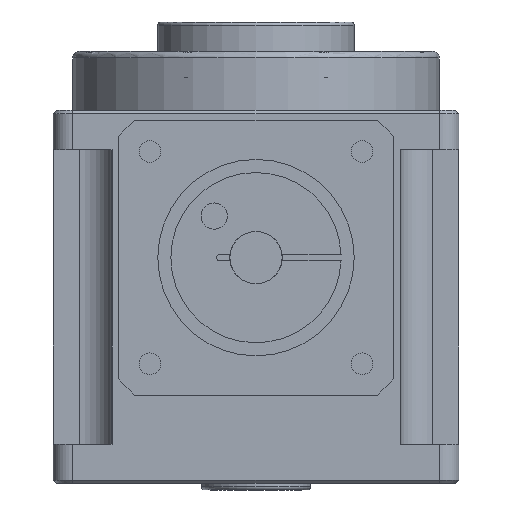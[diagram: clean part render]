
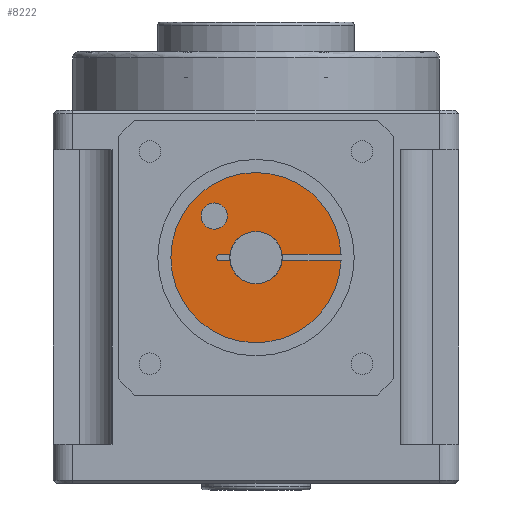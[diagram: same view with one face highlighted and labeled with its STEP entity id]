
A CAD part, front view. The second image highlights one B-rep face of the part: STEP entity #8222.
In plain terms, the highlighted planar face has unit normal (0, -1, 0) as drawn and (0, 0, -1) by its records, which use the part's own axes.
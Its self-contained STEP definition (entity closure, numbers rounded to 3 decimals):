
#24 = EDGE_CURVE ( 'NONE', #12232, #3099, #3410, .T. ) ;
#29 = EDGE_CURVE ( 'NONE', #12232, #10067, #10209, .T. ) ;
#183 = EDGE_CURVE ( 'NONE', #2002, #3324, #3611, .T. ) ;
#372 = CARTESIAN_POINT ( 'NONE',  ( 3.969, 0.5, -48.5 ) ) ;
#434 = CARTESIAN_POINT ( 'NONE',  ( 0., 0.5, -48.5 ) ) ;
#777 = DIRECTION ( 'NONE',  ( -1., 0., 0. ) ) ;
#809 = AXIS2_PLACEMENT_3D ( 'NONE', #5643, #5697, #12736 ) ;
#984 = FACE_OUTER_BOUND ( 'NONE', #1908, .T. ) ;
#1090 = DIRECTION ( 'NONE',  ( -1., 0., 0. ) ) ;
#1096 = ORIENTED_EDGE ( 'NONE', *, *, #29, .F. ) ;
#1165 = CARTESIAN_POINT ( 'NONE',  ( 12.99, -0.5, -48.5 ) ) ;
#1219 = CARTESIAN_POINT ( 'NONE',  ( 0., 0., -48.5 ) ) ;
#1312 = CARTESIAN_POINT ( 'NONE',  ( 0., -0.5, -48.5 ) ) ;
#1683 = CARTESIAN_POINT ( 'NONE',  ( 3.969, -0.5, -48.5 ) ) ;
#1844 = DIRECTION ( 'NONE',  ( -1., 0., 0. ) ) ;
#1851 = CIRCLE ( 'NONE', #809, 2. ) ;
#1874 = CIRCLE ( 'NONE', #7677, 4. ) ;
#1908 = EDGE_LOOP ( 'NONE', ( #9528, #12046, #2088, #8051, #12694, #2012, #3838, #11901, #1096 ) ) ;
#2002 = VERTEX_POINT ( 'NONE', #4945 ) ;
#2012 = ORIENTED_EDGE ( 'NONE', *, *, #8197, .F. ) ;
#2026 = DIRECTION ( 'NONE',  ( 0., 0., -1. ) ) ;
#2088 = ORIENTED_EDGE ( 'NONE', *, *, #12684, .F. ) ;
#2327 = DIRECTION ( 'NONE',  ( 0., 0., -1. ) ) ;
#2379 = DIRECTION ( 'NONE',  ( -1., 0., 0. ) ) ;
#2860 = VERTEX_POINT ( 'NONE', #2879 ) ;
#2879 = CARTESIAN_POINT ( 'NONE',  ( -6., 0., -48.5 ) ) ;
#3064 = CARTESIAN_POINT ( 'NONE',  ( -5.5, 0., -48.5 ) ) ;
#3099 = VERTEX_POINT ( 'NONE', #9520 ) ;
#3242 = AXIS2_PLACEMENT_3D ( 'NONE', #3064, #10884, #9849 ) ;
#3324 = VERTEX_POINT ( 'NONE', #10693 ) ;
#3410 = CIRCLE ( 'NONE', #9034, 13. ) ;
#3515 = EDGE_LOOP ( 'NONE', ( #7441, #6501 ) ) ;
#3611 = LINE ( 'NONE', #434, #9880 ) ;
#3614 = DIRECTION ( 'NONE',  ( 0., 0., -1. ) ) ;
#3838 = ORIENTED_EDGE ( 'NONE', *, *, #6401, .F. ) ;
#4029 = DIRECTION ( 'NONE',  ( -1., 0., 0. ) ) ;
#4037 = FACE_BOUND ( 'NONE', #3515, .T. ) ;
#4269 = EDGE_CURVE ( 'NONE', #3099, #9956, #5971, .T. ) ;
#4536 = VECTOR ( 'NONE', #9075, 1000. ) ;
#4945 = CARTESIAN_POINT ( 'NONE',  ( -3.969, 0.5, -48.5 ) ) ;
#5023 = CARTESIAN_POINT ( 'NONE',  ( -5.5, 0., -48.5 ) ) ;
#5090 = VECTOR ( 'NONE', #1090, 1000. ) ;
#5384 = VERTEX_POINT ( 'NONE', #7403 ) ;
#5530 = CIRCLE ( 'NONE', #3242, 0.5 ) ;
#5643 = CARTESIAN_POINT ( 'NONE',  ( -6.378, -6.35, -48.5 ) ) ;
#5697 = DIRECTION ( 'NONE',  ( 0., 0., -1. ) ) ;
#5917 = CARTESIAN_POINT ( 'NONE',  ( -6.378, -6.35, -48.5 ) ) ;
#5971 = LINE ( 'NONE', #10665, #12091 ) ;
#6047 = DIRECTION ( 'NONE',  ( -1., 0., 0. ) ) ;
#6401 = EDGE_CURVE ( 'NONE', #7518, #11089, #12013, .T. ) ;
#6501 = ORIENTED_EDGE ( 'NONE', *, *, #7258, .F. ) ;
#6969 = CARTESIAN_POINT ( 'NONE',  ( 0., 0., -48.5 ) ) ;
#6973 = EDGE_CURVE ( 'NONE', #10067, #7518, #1874, .T. ) ;
#7018 = CARTESIAN_POINT ( 'NONE',  ( 0., -0.5, -48.5 ) ) ;
#7258 = EDGE_CURVE ( 'NONE', #5384, #8863, #1851, .T. ) ;
#7305 = CARTESIAN_POINT ( 'NONE',  ( 0., 0., -48.5 ) ) ;
#7309 = CARTESIAN_POINT ( 'NONE',  ( -3.969, -0.5, -48.5 ) ) ;
#7398 = AXIS2_PLACEMENT_3D ( 'NONE', #7305, #11607, #1844 ) ;
#7403 = CARTESIAN_POINT ( 'NONE',  ( -4.378, -6.35, -48.5 ) ) ;
#7441 = ORIENTED_EDGE ( 'NONE', *, *, #12083, .F. ) ;
#7518 = VERTEX_POINT ( 'NONE', #7309 ) ;
#7677 = AXIS2_PLACEMENT_3D ( 'NONE', #9626, #3614, #12615 ) ;
#7814 = PLANE ( 'NONE',  #10292 ) ;
#8051 = ORIENTED_EDGE ( 'NONE', *, *, #183, .T. ) ;
#8197 = EDGE_CURVE ( 'NONE', #11089, #2860, #11140, .T. ) ;
#8222 = ADVANCED_FACE ( 'NONE', ( #4037, #984 ), #7814, .T. ) ;
#8285 = EDGE_CURVE ( 'NONE', #2860, #3324, #5530, .T. ) ;
#8421 = AXIS2_PLACEMENT_3D ( 'NONE', #5023, #11923, #11727 ) ;
#8863 = VERTEX_POINT ( 'NONE', #12661 ) ;
#9034 = AXIS2_PLACEMENT_3D ( 'NONE', #1219, #2327, #6047 ) ;
#9043 = DIRECTION ( 'NONE',  ( 0., 0., -1. ) ) ;
#9075 = DIRECTION ( 'NONE',  ( -1., 0., 0. ) ) ;
#9283 = CIRCLE ( 'NONE', #7398, 4. ) ;
#9520 = CARTESIAN_POINT ( 'NONE',  ( 12.99, 0.5, -48.5 ) ) ;
#9528 = ORIENTED_EDGE ( 'NONE', *, *, #24, .T. ) ;
#9626 = CARTESIAN_POINT ( 'NONE',  ( 0., 0., -48.5 ) ) ;
#9808 = CARTESIAN_POINT ( 'NONE',  ( -5.5, -0.5, -48.5 ) ) ;
#9849 = DIRECTION ( 'NONE',  ( -1., 0., 0. ) ) ;
#9880 = VECTOR ( 'NONE', #2379, 1000. ) ;
#9956 = VERTEX_POINT ( 'NONE', #372 ) ;
#10067 = VERTEX_POINT ( 'NONE', #1683 ) ;
#10209 = LINE ( 'NONE', #7018, #5090 ) ;
#10292 = AXIS2_PLACEMENT_3D ( 'NONE', #6969, #2026, #11996 ) ;
#10385 = CIRCLE ( 'NONE', #11032, 2. ) ;
#10665 = CARTESIAN_POINT ( 'NONE',  ( 0., 0.5, -48.5 ) ) ;
#10693 = CARTESIAN_POINT ( 'NONE',  ( -5.5, 0.5, -48.5 ) ) ;
#10884 = DIRECTION ( 'NONE',  ( 0., 0., -1. ) ) ;
#11032 = AXIS2_PLACEMENT_3D ( 'NONE', #5917, #9043, #4029 ) ;
#11089 = VERTEX_POINT ( 'NONE', #9808 ) ;
#11140 = CIRCLE ( 'NONE', #8421, 0.5 ) ;
#11607 = DIRECTION ( 'NONE',  ( 0., 0., -1. ) ) ;
#11727 = DIRECTION ( 'NONE',  ( -1., 0., 0. ) ) ;
#11901 = ORIENTED_EDGE ( 'NONE', *, *, #6973, .F. ) ;
#11923 = DIRECTION ( 'NONE',  ( 0., 0., -1. ) ) ;
#11996 = DIRECTION ( 'NONE',  ( -1., 0., 0. ) ) ;
#12013 = LINE ( 'NONE', #1312, #4536 ) ;
#12046 = ORIENTED_EDGE ( 'NONE', *, *, #4269, .T. ) ;
#12083 = EDGE_CURVE ( 'NONE', #8863, #5384, #10385, .T. ) ;
#12091 = VECTOR ( 'NONE', #777, 1000. ) ;
#12232 = VERTEX_POINT ( 'NONE', #1165 ) ;
#12615 = DIRECTION ( 'NONE',  ( -1., 0., 0. ) ) ;
#12661 = CARTESIAN_POINT ( 'NONE',  ( -8.378, -6.35, -48.5 ) ) ;
#12684 = EDGE_CURVE ( 'NONE', #2002, #9956, #9283, .T. ) ;
#12694 = ORIENTED_EDGE ( 'NONE', *, *, #8285, .F. ) ;
#12736 = DIRECTION ( 'NONE',  ( -1., 0., 0. ) ) ;
